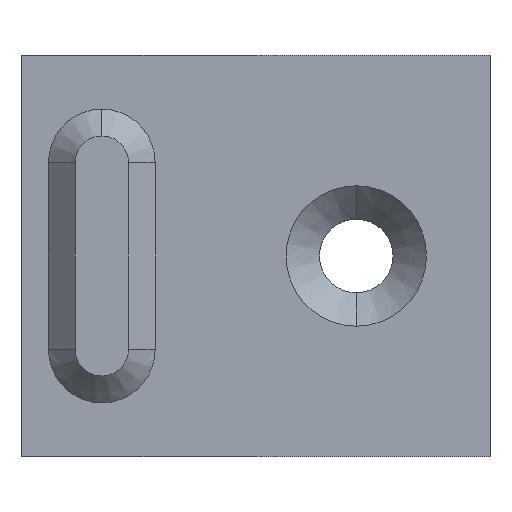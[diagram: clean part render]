
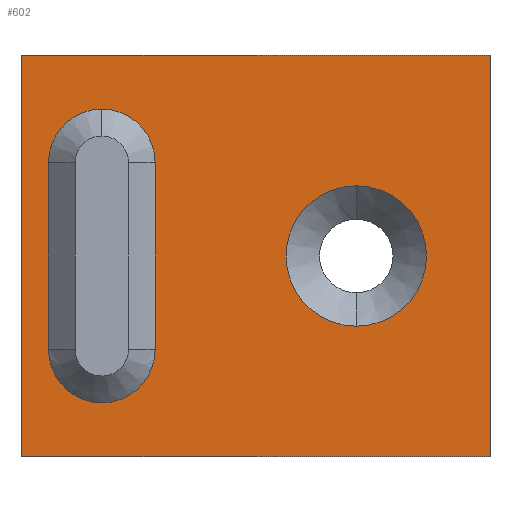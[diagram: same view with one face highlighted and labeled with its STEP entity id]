
A CAD part, front view. The second image highlights one B-rep face of the part: STEP entity #602.
In plain terms, the highlighted planar face has unit normal (0, -1, 0).
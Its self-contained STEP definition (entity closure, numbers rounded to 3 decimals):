
#60 = LINE ( 'NONE', #1275, #486 ) ;
#79 = EDGE_CURVE ( 'NONE', #371, #1303, #868, .T. ) ;
#88 = DIRECTION ( 'NONE',  ( 0., 0., -1. ) ) ;
#91 = EDGE_CURVE ( 'NONE', #872, #930, #1266, .T. ) ;
#105 = FACE_OUTER_BOUND ( 'NONE', #785, .T. ) ;
#175 = CIRCLE ( 'NONE', #606, 3.99 ) ;
#191 = CIRCLE ( 'NONE', #270, 3.99 ) ;
#200 = CARTESIAN_POINT ( 'NONE',  ( -15.52, 0., 6.99 ) ) ;
#203 = EDGE_CURVE ( 'NONE', #742, #371, #901, .T. ) ;
#205 = ORIENTED_EDGE ( 'NONE', *, *, #929, .F. ) ;
#208 = ORIENTED_EDGE ( 'NONE', *, *, #79, .F. ) ;
#240 = CARTESIAN_POINT ( 'NONE',  ( -11.53, 0., -6.99 ) ) ;
#268 = DIRECTION ( 'NONE',  ( 0., 0., 1. ) ) ;
#270 = AXIS2_PLACEMENT_3D ( 'NONE', #1103, #1111, #558 ) ;
#288 = DIRECTION ( 'NONE',  ( -1., 0., 0. ) ) ;
#310 = DIRECTION ( 'NONE',  ( 0., -1., 0. ) ) ;
#316 = CARTESIAN_POINT ( 'NONE',  ( -11.53, 0., 10.98 ) ) ;
#324 = EDGE_LOOP ( 'NONE', ( #388, #367 ) ) ;
#327 = AXIS2_PLACEMENT_3D ( 'NONE', #890, #1281, #1140 ) ;
#342 = ORIENTED_EDGE ( 'NONE', *, *, #541, .F. ) ;
#346 = AXIS2_PLACEMENT_3D ( 'NONE', #1290, #748, #88 ) ;
#349 = DIRECTION ( 'NONE',  ( 0., -1., 0. ) ) ;
#353 = EDGE_CURVE ( 'NONE', #930, #872, #944, .T. ) ;
#367 = ORIENTED_EDGE ( 'NONE', *, *, #91, .F. ) ;
#371 = VERTEX_POINT ( 'NONE', #1255 ) ;
#373 = DIRECTION ( 'NONE',  ( 0., 0., -1. ) ) ;
#377 = VERTEX_POINT ( 'NONE', #773 ) ;
#388 = ORIENTED_EDGE ( 'NONE', *, *, #353, .F. ) ;
#390 = DIRECTION ( 'NONE',  ( 0., 0., -1. ) ) ;
#399 = ORIENTED_EDGE ( 'NONE', *, *, #637, .F. ) ;
#411 = VECTOR ( 'NONE', #268, 1000. ) ;
#460 = CARTESIAN_POINT ( 'NONE',  ( -7.54, 0., 6.99 ) ) ;
#486 = VECTOR ( 'NONE', #288, 1000. ) ;
#493 = LINE ( 'NONE', #200, #506 ) ;
#495 = CARTESIAN_POINT ( 'NONE',  ( 17.5, 0., 15. ) ) ;
#506 = VECTOR ( 'NONE', #710, 1000. ) ;
#511 = DIRECTION ( 'NONE',  ( 0., 1., 0. ) ) ;
#526 = ORIENTED_EDGE ( 'NONE', *, *, #1219, .F. ) ;
#532 = VECTOR ( 'NONE', #719, 1000. ) ;
#541 = EDGE_CURVE ( 'NONE', #1325, #943, #493, .T. ) ;
#546 = LINE ( 'NONE', #712, #532 ) ;
#548 = CIRCLE ( 'NONE', #1190, 3.99 ) ;
#558 = DIRECTION ( 'NONE',  ( 0., 0., -1. ) ) ;
#568 = VERTEX_POINT ( 'NONE', #460 ) ;
#602 = ADVANCED_FACE ( 'NONE', ( #997, #105, #1001 ), #784, .F. ) ;
#606 = AXIS2_PLACEMENT_3D ( 'NONE', #1150, #349, #373 ) ;
#621 = VECTOR ( 'NONE', #811, 1000. ) ;
#632 = LINE ( 'NONE', #1309, #621 ) ;
#637 = EDGE_CURVE ( 'NONE', #943, #377, #548, .T. ) ;
#639 = CARTESIAN_POINT ( 'NONE',  ( 17.5, 0., -15. ) ) ;
#710 = DIRECTION ( 'NONE',  ( 0., 0., -1. ) ) ;
#712 = CARTESIAN_POINT ( 'NONE',  ( 17.5, 0., 15. ) ) ;
#719 = DIRECTION ( 'NONE',  ( 0., 0., -1. ) ) ;
#742 = VERTEX_POINT ( 'NONE', #1019 ) ;
#748 = DIRECTION ( 'NONE',  ( 0., -1., 0. ) ) ;
#773 = CARTESIAN_POINT ( 'NONE',  ( -7.54, 0., -6.99 ) ) ;
#784 = PLANE ( 'NONE',  #1252 ) ;
#785 = EDGE_LOOP ( 'NONE', ( #1070, #1024, #526, #208 ) ) ;
#798 = CARTESIAN_POINT ( 'NONE',  ( 7.5, 0., 5.25 ) ) ;
#805 = EDGE_LOOP ( 'NONE', ( #1304, #205, #399, #342, #985 ) ) ;
#811 = DIRECTION ( 'NONE',  ( 0., 0., 1. ) ) ;
#820 = CARTESIAN_POINT ( 'NONE',  ( 0., 0., 0. ) ) ;
#827 = EDGE_CURVE ( 'NONE', #953, #1325, #175, .T. ) ;
#868 = LINE ( 'NONE', #1131, #1278 ) ;
#872 = VERTEX_POINT ( 'NONE', #798 ) ;
#890 = CARTESIAN_POINT ( 'NONE',  ( 7.5, 0., 0. ) ) ;
#901 = LINE ( 'NONE', #979, #411 ) ;
#929 = EDGE_CURVE ( 'NONE', #377, #568, #632, .T. ) ;
#930 = VERTEX_POINT ( 'NONE', #933 ) ;
#933 = CARTESIAN_POINT ( 'NONE',  ( 7.5, 0., -5.25 ) ) ;
#942 = DIRECTION ( 'NONE',  ( 0., 0., 1. ) ) ;
#943 = VERTEX_POINT ( 'NONE', #1163 ) ;
#944 = CIRCLE ( 'NONE', #346, 5.25 ) ;
#953 = VERTEX_POINT ( 'NONE', #316 ) ;
#979 = CARTESIAN_POINT ( 'NONE',  ( -17.5, 0., 15. ) ) ;
#982 = EDGE_CURVE ( 'NONE', #568, #953, #191, .T. ) ;
#985 = ORIENTED_EDGE ( 'NONE', *, *, #827, .F. ) ;
#997 = FACE_BOUND ( 'NONE', #805, .T. ) ;
#1001 = FACE_BOUND ( 'NONE', #324, .T. ) ;
#1019 = CARTESIAN_POINT ( 'NONE',  ( -17.5, 0., -15. ) ) ;
#1024 = ORIENTED_EDGE ( 'NONE', *, *, #1243, .F. ) ;
#1070 = ORIENTED_EDGE ( 'NONE', *, *, #203, .F. ) ;
#1103 = CARTESIAN_POINT ( 'NONE',  ( -11.53, 0., 6.99 ) ) ;
#1111 = DIRECTION ( 'NONE',  ( 0., -1., 0. ) ) ;
#1131 = CARTESIAN_POINT ( 'NONE',  ( 17.5, 0., 15. ) ) ;
#1140 = DIRECTION ( 'NONE',  ( 0., 0., -1. ) ) ;
#1150 = CARTESIAN_POINT ( 'NONE',  ( -11.53, 0., 6.99 ) ) ;
#1154 = CARTESIAN_POINT ( 'NONE',  ( -15.52, 0., 6.99 ) ) ;
#1163 = CARTESIAN_POINT ( 'NONE',  ( -15.52, 0., -6.99 ) ) ;
#1190 = AXIS2_PLACEMENT_3D ( 'NONE', #240, #310, #390 ) ;
#1199 = DIRECTION ( 'NONE',  ( 1., 0., 0. ) ) ;
#1219 = EDGE_CURVE ( 'NONE', #1303, #1297, #546, .T. ) ;
#1243 = EDGE_CURVE ( 'NONE', #1297, #742, #60, .T. ) ;
#1252 = AXIS2_PLACEMENT_3D ( 'NONE', #820, #511, #942 ) ;
#1255 = CARTESIAN_POINT ( 'NONE',  ( -17.5, 0., 15. ) ) ;
#1266 = CIRCLE ( 'NONE', #327, 5.25 ) ;
#1275 = CARTESIAN_POINT ( 'NONE',  ( 17.5, 0., -15. ) ) ;
#1278 = VECTOR ( 'NONE', #1199, 1000. ) ;
#1281 = DIRECTION ( 'NONE',  ( 0., -1., 0. ) ) ;
#1290 = CARTESIAN_POINT ( 'NONE',  ( 7.5, 0., 0. ) ) ;
#1297 = VERTEX_POINT ( 'NONE', #639 ) ;
#1303 = VERTEX_POINT ( 'NONE', #495 ) ;
#1304 = ORIENTED_EDGE ( 'NONE', *, *, #982, .F. ) ;
#1309 = CARTESIAN_POINT ( 'NONE',  ( -7.54, 0., 6.99 ) ) ;
#1325 = VERTEX_POINT ( 'NONE', #1154 ) ;
